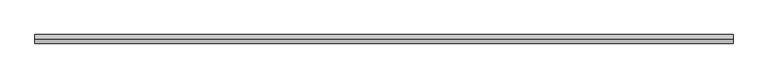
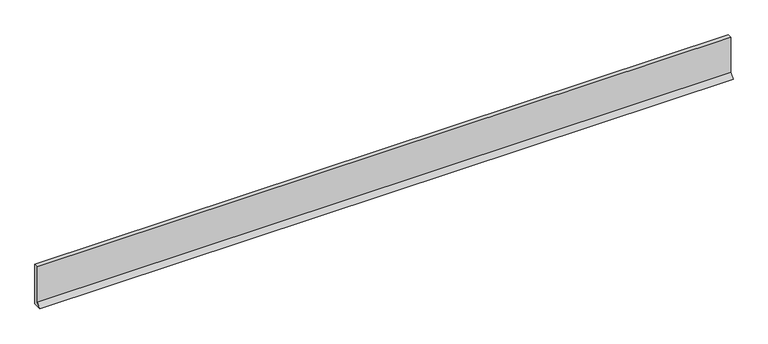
"""IFC4 building model written with IfcOpenShell, lengths in millimetres: plate geometry, ATELIERS 3S_EPURE CDB 300_HORIZONTAL : AZURO."""

from ifc_helpers import new_model, si_unit, frame, origin, place, context, project, spatial, polyline, outline, extrude, source, transform, mapped, element, save


def plate_377ee14b(model_context):
    return source(origin(), model_context, "Body", "SweptSolid", [
        extrude(outline(polyline([(-30.0201339, 31.7071152), (-30.0201339, 300.0), (0.0, 300.0), (0.0, 0.0), (-61.727249, 0.0), (-30.0201339, 31.7071152)])), frame((-2500.0, 0.0, 0.0), z_axis=(1.0, 0.0, 0.0), x_axis=(0.0, 1.0, 0.0)), (0.0, 0.0, 1.0), 5000.0),
    ])


if __name__ == "__main__":
    model = new_model("IFC4")
    model_context = context("Model", 3, world=origin())
    ifc_project = project(units=[si_unit("LENGTHUNIT", "METRE", prefix="MILLI")], contexts=[model_context])
    site = spatial("IfcSite", under=ifc_project)
    building = spatial("IfcBuilding", under=site)
    placement = place(None, origin())
    plate_shape = plate_377ee14b(model_context)
    element("IfcPlate", 1, ObjectType="ATELIERS 3S_EPURE CDB 300_HORIZONTAL : AZURO", at=placement, inside=building, context=model_context, shape_type="MappedRepresentation", body=[
        mapped(plate_shape, transform((0.0, 0.0, 0.0), x_axis=(1.0, 0.0, 0.0), y_axis=(0.0, 1.0, 0.0), z_axis=(0.0, 0.0, 1.0))),
    ])
    save(model, "model.ifc")
